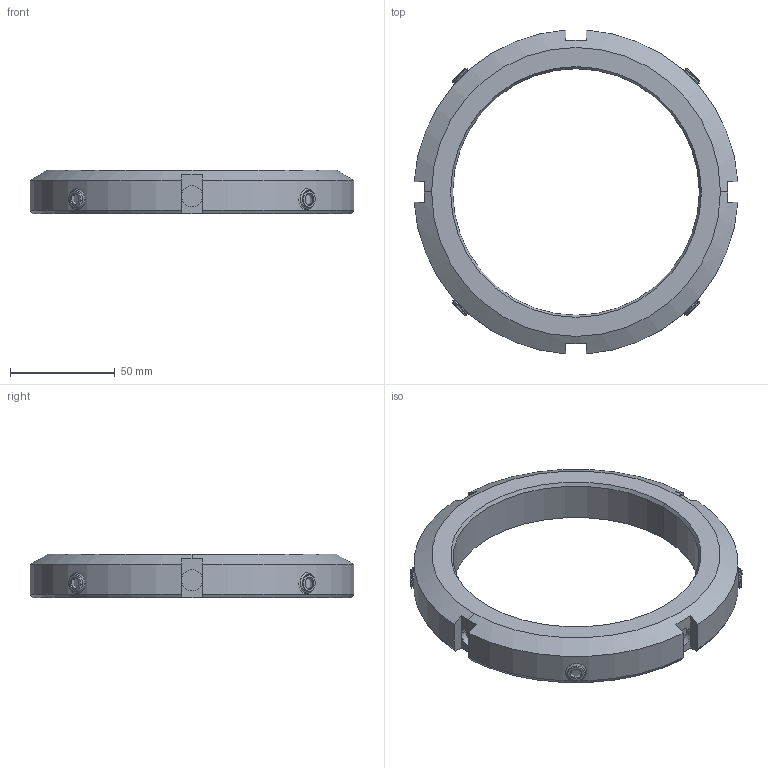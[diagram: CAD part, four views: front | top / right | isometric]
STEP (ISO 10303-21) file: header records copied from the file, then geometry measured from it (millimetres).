
FILE_DESCRIPTION (( 'STEP AP214' ), '1' );
FILE_NAME ('TLNKM 24 PH.STEP', '2011-08-08T00:35:51', ( '' ), ( '' ), 'SwSTEP 2.0', 'SolidWorks 2010', '' );
FILE_SCHEMA (( 'AUTOMOTIVE_DESIGN' ));
Length unit declared in the file: millimetre
Products named in the file (3): TLNKM 24; 92605A157_92605A157; TLNKM 24 PH
Assembly tree (5 placements, depth 2):
  TLNKM 24 PH
    92605A157_92605A157  x4
    TLNKM 24
Bounding box: 154.67 x 154.67 x 21 mm (x, y, z)
Volume: 130138.6 mm3; surface area: 44541.2 mm2
Topology: 5 solids, 5 shells, 326 faces, 860 edges, 552 vertices
Faces by surface type: cylinder 202, plane 62, cone 54, bspline 8
Entity records: 6401 total; most frequent: CARTESIAN_POINT 3244, ORIENTED_EDGE 694, DIRECTION 603, EDGE_CURVE 347, AXIS2_PLACEMENT_3D 237, VERTEX_POINT 222, EDGE_LOOP 141, FACE_OUTER_BOUND 134
